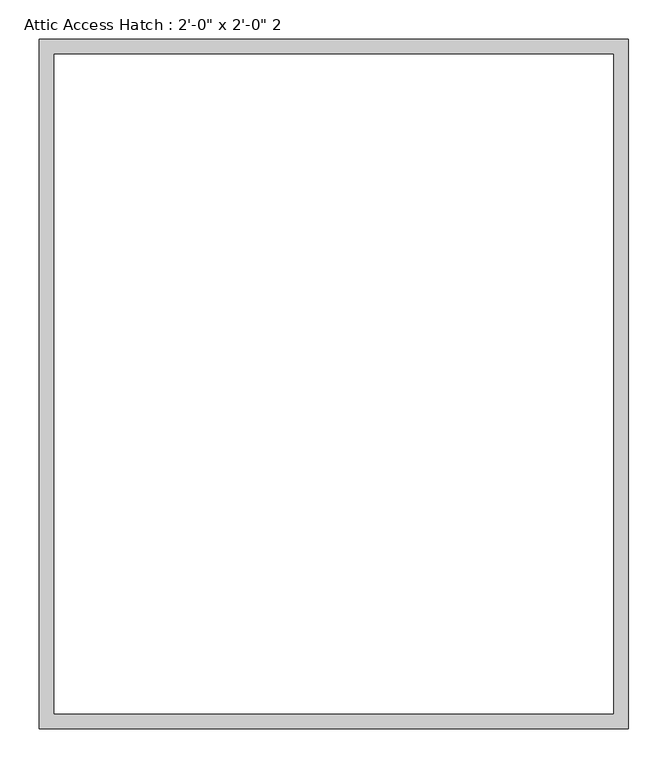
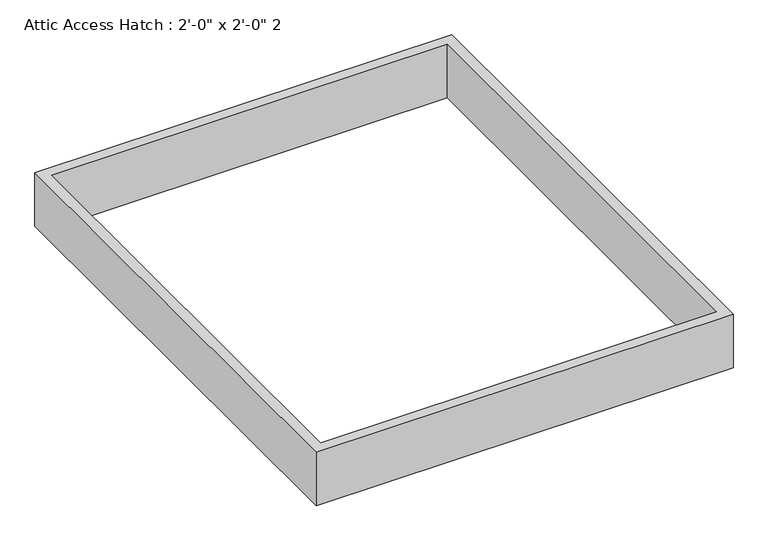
"""IFC4 building model written with IfcOpenShell, lengths in millimetres: proxy geometry."""

from ifc_helpers import new_model, si_unit, frame, origin, place, context, project, spatial, polyline, outline, extrude, source, transform, mapped, element, save


def proxy_d9ecea55(model_context):
    return source(origin(), model_context, "Body", "SweptSolid", [
        extrude(outline(polyline([(374.65, 438.15), (374.65, -438.15), (-374.65, -438.15), (-374.65, 438.15), (374.65, 438.15)]), holes=[polyline([(355.6, 419.1), (-355.6, 419.1), (-355.6, -419.1), (355.6, -419.1), (355.6, 419.1)])]), frame((0.0, 0.0, 2438.4), z_axis=(0.0, 0.0, 1.0), x_axis=(1.0, 0.0, 0.0)), (0.0, 0.0, 1.0), 101.6),
    ])


if __name__ == "__main__":
    model = new_model("IFC4")
    model_context = context("Model", 3, world=origin())
    ifc_project = project(units=[si_unit("LENGTHUNIT", "METRE", prefix="MILLI")], contexts=[model_context])
    site = spatial("IfcSite", under=ifc_project)
    building = spatial("IfcBuilding", under=site)
    placement = place(None, origin())
    proxy_shape = proxy_d9ecea55(model_context)
    element("IfcBuildingElementProxy", 1, Name="Attic Access Hatch : 2'-0\" x 2'-0\" 2", ObjectType="Attic Access Hatch : 2'-0\" x 2'-0\" 2", at=placement, inside=building, context=model_context, shape_type="MappedRepresentation", body=[
        mapped(proxy_shape, transform((0.0, 0.0, 0.0), x_axis=(1.0, 0.0, 0.0), y_axis=(0.0, 1.0, 0.0), z_axis=(0.0, 0.0, 1.0))),
    ])
    save(model, "model.ifc")
